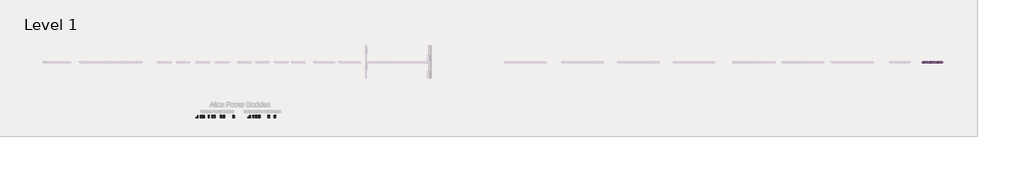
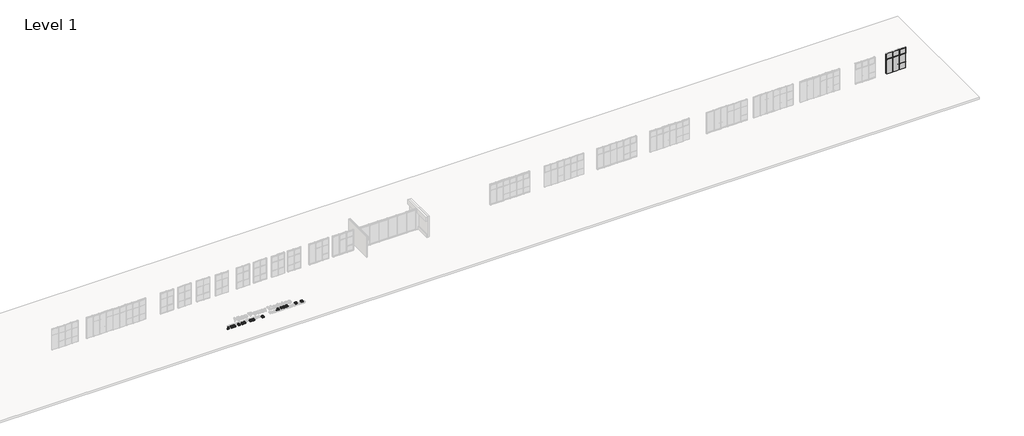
# One storey, part 17 of 22: 51 proxies.
"""IFC4 building model written with IfcOpenShell, lengths in millimetres."""

from ifc_helpers import new_model, si_unit, origin, place, context, project, spatial, transform, mapped, element, save
from components import specialty_equipment_a7725fb8, electrical_fixtures_e288b9bc, electrical_fixtures_7935cbd9, electrical_fixtures_94c24c1b, electrical_fixtures_9f06c1d8, electrical_fixtures_cf150507, electrical_fixtures_b57f04e2, electrical_fixtures_b943349e, electrical_fixtures_7ee819dc, electrical_fixtures_2c1a8ef8, electrical_fixtures_6ca6a594, electrical_fixtures_9293c94c, electrical_fixtures_81150f9e, electrical_fixtures_d6838e8a, electrical_fixtures_fca81bba, electrical_fixtures_5d6b1b63, electrical_fixtures_cbb62ec8, specialty_equipment_5beb618c, frame_teknion_horizontal_rail_5872ae1a, frame_teknion_horizontal_rail_149fd3e6, pd_horizontal_module_communications_3bd114d5, pd_horizontal_module_double_one_15_amp_standard_91662da0, pd_horizontal_module_double_one_20_amp_standard_4a8edad1, pd_horizontal_module_double_two_15_amp_standard_6849602c, pd_horizontal_module_double_two_20_amp_standard_3f62b5b6, pd_horizontal_module_single_15_amp_standard_5c934545, pd_horizontal_module_single_20_amp_standard_525e48b1, pd_vertical_module_communications_bda5cb75, pd_vertical_module_double_one_15_amp_standard_e69900ea, pd_vertical_module_double_one_20_amp_standard_6d0cff1c, pd_vertical_module_double_two_15_amp_standard_3b64569a, pd_vertical_module_double_two_20_amp_standard_31f9a75b, pd_vertical_module_quad_15_amp_standard_all_outlets_835c5be2, pd_vertical_module_quad_20_amp_standard_all_outlets_cea8ea7a, pd_vertical_module_single_15_amp_standard_b1616907, pd_vertical_module_single_20_amp_standard_ca99faa8, pd_vertical_module_triple_15_amp_standard_a40d858c, pd_vertical_module_triple_20_amp_standard_58f04986, panel_fascia_teknion_clerestory_base_fascia_level_ii_c53b4d47, panel_fascia_teknion_clerestory_base_fascia_level_ii_690aed16, panel_fascia_teknion_clerestory_base_fascia_level_ii_2c55b825, panel_fascia_teknion_clerestory_base_fascia_segmented_136e7ca1, panel_fascia_teknion_clerestory_base_fascia_segmented_5bbcc382, panel_fascia_teknion_clerestory_base_fascia_segmented_676c6a3b, panel_fascia_teknion_clerestory_base_fascia_working_wall_dc28b561, panel_fascia_teknion_clerestory_base_fascia_working_wall_c515cb01, panel_fascia_teknion_clerestory_base_fascia_working_wall_e7e99f1c

model = new_model("IFC4")

# Units and contexts
model_context = context("Model", 3, world=origin())
ifc_project = project(units=[si_unit("LENGTHUNIT", "METRE", prefix="MILLI")], contexts=[model_context])

# Site, building, storey
site = spatial("IfcSite", under=ifc_project)
building = spatial("IfcBuilding", under=site)
storey = spatial("IfcBuildingStorey", under=building, Name="Level 1", Elevation=0.0)

# Proxies
placement = place(None, origin())
specialty_equipment_shape = specialty_equipment_a7725fb8(model_context)
element("IfcBuildingElementProxy", 1, Name="Panel-Clerestory-Teknion-Optos-Altos_Monolithic_Fascias : FYCG", ObjectType="Panel-Clerestory-Teknion-Optos-Altos_Monolithic_Fascias : FYCG", at=placement, inside=storey, context=model_context, shape_type="MappedRepresentation", body=[
    mapped(specialty_equipment_shape, transform((78556.512457, 1812.3522105, 2136.775), x_axis=(-1.0, 0.0, 0.0), y_axis=(0.0, -1.0, 0.0), z_axis=(0.0, 0.0, 1.0))),
])
element("IfcBuildingElementProxy", 2, Name="Panel-Clerestory-Teknion-Optos-Altos_Monolithic_Fascias : FYCG", ObjectType="Panel-Clerestory-Teknion-Optos-Altos_Monolithic_Fascias : FYCG", at=placement, inside=storey, context=model_context, shape_type="MappedRepresentation", body=[
    mapped(specialty_equipment_shape, transform((76741.7023007, 1812.3522105, 2136.775), x_axis=(-1.0, 0.0, 0.0), y_axis=(0.0, -1.0, 0.0), z_axis=(0.0, 0.0, 1.0))),
])
electrical_fixtures_shape = electrical_fixtures_e288b9bc(model_context)
element("IfcBuildingElementProxy", 3, Name="Electrical-Teknion-EPDMD_Vertical_Power_Data_Double-R2019 : PD Vertical Module - Double 15 Amp USB (A+C)", ObjectType="Electrical-Teknion-EPDMD_Vertical_Power_Data_Double-R2019 : PD Vertical Module - Double 15 Amp USB (A+C)", at=placement, inside=storey, context=model_context, shape_type="MappedRepresentation", body=[
    mapped(electrical_fixtures_shape, transform((-17578.0460124, -5496.5835012, 0.0), x_axis=(1.0, 0.0, 0.0), y_axis=(0.0, 1.0, 0.0), z_axis=(0.0, 0.0, 1.0))),
])
electrical_fixtures_2_shape = electrical_fixtures_7935cbd9(model_context)
element("IfcBuildingElementProxy", 4, Name="Electrical-Teknion-EPDMD_Vertical_Power_Data_Double-R2019 : PD Vertical Module - Double 20 Amp USB (A+C)", ObjectType="Electrical-Teknion-EPDMD_Vertical_Power_Data_Double-R2019 : PD Vertical Module - Double 20 Amp USB (A+C)", at=placement, inside=storey, context=model_context, shape_type="MappedRepresentation", body=[
    mapped(electrical_fixtures_2_shape, transform((-17578.0460124, -5272.1720809, 0.0), x_axis=(1.0, 0.0, 0.0), y_axis=(0.0, 1.0, 0.0), z_axis=(0.0, 0.0, 1.0))),
])
electrical_fixtures_3_shape = electrical_fixtures_94c24c1b(model_context)
element("IfcBuildingElementProxy", 5, Name="Electrical-Teknion-EPDMD_Vertical_Power_Data_Double-R2019 : PD Vertical Module - Double 15 Amp USB (A+C) & 15 Amp Standard", ObjectType="Electrical-Teknion-EPDMD_Vertical_Power_Data_Double-R2019 : PD Vertical Module - Double 15 Amp USB (A+C) & 15 Amp Standard", at=placement, inside=storey, context=model_context, shape_type="MappedRepresentation", body=[
    mapped(electrical_fixtures_3_shape, transform((-17134.5220958, -5496.5835012, 0.0), x_axis=(1.0, 0.0, 0.0), y_axis=(0.0, 1.0, 0.0), z_axis=(0.0, 0.0, 1.0))),
])
electrical_fixtures_4_shape = electrical_fixtures_9f06c1d8(model_context)
element("IfcBuildingElementProxy", 6, Name="Electrical-Teknion-EPDMD_Vertical_Power_Data_Double-R2019 : PD Vertical Module - Double 20 Amp USB (A+C) & 20 Amp Standard", ObjectType="Electrical-Teknion-EPDMD_Vertical_Power_Data_Double-R2019 : PD Vertical Module - Double 20 Amp USB (A+C) & 20 Amp Standard", at=placement, inside=storey, context=model_context, shape_type="MappedRepresentation", body=[
    mapped(electrical_fixtures_4_shape, transform((-17134.5220958, -5272.1720809, 0.0), x_axis=(1.0, 0.0, 0.0), y_axis=(0.0, 1.0, 0.0), z_axis=(0.0, 0.0, 1.0))),
])
electrical_fixtures_5_shape = electrical_fixtures_cf150507(model_context)
element("IfcBuildingElementProxy", 7, Name="Electrical-Teknion-EPDMT_Vertical_Power_Data_Triple-R2019 : PD Vertical Module - Triple 15 Amp USB (A+C) & 15 Amp Standard", ObjectType="Electrical-Teknion-EPDMT_Vertical_Power_Data_Triple-R2019 : PD Vertical Module - Triple 15 Amp USB (A+C) & 15 Amp Standard", at=placement, inside=storey, context=model_context, shape_type="MappedRepresentation", body=[
    mapped(electrical_fixtures_5_shape, transform((-16003.1705225, -5496.5835012, 0.0), x_axis=(1.0, 0.0, 0.0), y_axis=(0.0, 1.0, 0.0), z_axis=(0.0, 0.0, 1.0))),
])
electrical_fixtures_6_shape = electrical_fixtures_b57f04e2(model_context)
element("IfcBuildingElementProxy", 8, Name="Electrical-Teknion-EPDMT_Vertical_Power_Data_Triple-R2019 : PD Vertical Module - Triple 20 Amp USB (A+C) & 20 Amp Standard", ObjectType="Electrical-Teknion-EPDMT_Vertical_Power_Data_Triple-R2019 : PD Vertical Module - Triple 20 Amp USB (A+C) & 20 Amp Standard", at=placement, inside=storey, context=model_context, shape_type="MappedRepresentation", body=[
    mapped(electrical_fixtures_6_shape, transform((-16003.1705225, -5272.1720809, 0.0), x_axis=(1.0, 0.0, 0.0), y_axis=(0.0, 1.0, 0.0), z_axis=(0.0, 0.0, 1.0))),
])
electrical_fixtures_7_shape = electrical_fixtures_b943349e(model_context)
element("IfcBuildingElementProxy", 9, Name="Electrical-Teknion-EPDMQ_Vertical_Power_Data_Quad-R2019 : PD Vertical Module - Quad 15 Amp USB (A+C) & 15 Amp Standard", ObjectType="Electrical-Teknion-EPDMQ_Vertical_Power_Data_Quad-R2019 : PD Vertical Module - Quad 15 Amp USB (A+C) & 15 Amp Standard", at=placement, inside=storey, context=model_context, shape_type="MappedRepresentation", body=[
    mapped(electrical_fixtures_7_shape, transform((-14351.3987218, -5496.5835012, 0.0), x_axis=(1.0, 0.0, 0.0), y_axis=(0.0, 1.0, 0.0), z_axis=(0.0, 0.0, 1.0))),
])
electrical_fixtures_8_shape = electrical_fixtures_7ee819dc(model_context)
element("IfcBuildingElementProxy", 10, Name="Electrical-Teknion-EPDMQ_Vertical_Power_Data_Quad-R2019 : PD Vertical Module - Quad 20 Amp USB (A+C) & 20 Amp Standard", ObjectType="Electrical-Teknion-EPDMQ_Vertical_Power_Data_Quad-R2019 : PD Vertical Module - Quad 20 Amp USB (A+C) & 20 Amp Standard", at=placement, inside=storey, context=model_context, shape_type="MappedRepresentation", body=[
    mapped(electrical_fixtures_8_shape, transform((-14351.3987218, -5272.1720809, 0.0), x_axis=(1.0, 0.0, 0.0), y_axis=(0.0, 1.0, 0.0), z_axis=(0.0, 0.0, 1.0))),
])
electrical_fixtures_9_shape = electrical_fixtures_2c1a8ef8(model_context)
element("IfcBuildingElementProxy", 11, Name="Electrical-Teknion-EPDHS_Horizontal_Power_Data_Single-R2019 : PD Horizontal Module - Single 15 Amp USB (A+C)", ObjectType="Electrical-Teknion-EPDHS_Horizontal_Power_Data_Single-R2019 : PD Horizontal Module - Single 15 Amp USB (A+C)", at=placement, inside=storey, context=model_context, shape_type="MappedRepresentation", body=[
    mapped(electrical_fixtures_9_shape, transform((-11709.2014406, -5496.5835012, 0.0), x_axis=(1.0, 0.0, 0.0), y_axis=(0.0, 1.0, 0.0), z_axis=(0.0, 0.0, 1.0))),
])
electrical_fixtures_10_shape = electrical_fixtures_6ca6a594(model_context)
element("IfcBuildingElementProxy", 12, Name="Electrical-Teknion-EPDHS_Horizontal_Power_Data_Single-R2019 : PD Horizontal Module - Single 20 Amp USB (A+C)", ObjectType="Electrical-Teknion-EPDHS_Horizontal_Power_Data_Single-R2019 : PD Horizontal Module - Single 20 Amp USB (A+C)", at=placement, inside=storey, context=model_context, shape_type="MappedRepresentation", body=[
    mapped(electrical_fixtures_10_shape, transform((-11709.2014406, -5272.1720809, 0.0), x_axis=(1.0, 0.0, 0.0), y_axis=(0.0, 1.0, 0.0), z_axis=(0.0, 0.0, 1.0))),
])
electrical_fixtures_11_shape = electrical_fixtures_9293c94c(model_context)
element("IfcBuildingElementProxy", 13, Name="Electrical-Teknion-EPDHD_Horizontal_Power_Data_Double-R2019 : PD Horizontal Module - Double 15 Amp USB (A+C)", ObjectType="Electrical-Teknion-EPDHD_Horizontal_Power_Data_Double-R2019 : PD Horizontal Module - Double 15 Amp USB (A+C)", at=placement, inside=storey, context=model_context, shape_type="MappedRepresentation", body=[
    mapped(electrical_fixtures_11_shape, transform((-9748.4131037, -5496.5835012, 0.0), x_axis=(1.0, 0.0, 0.0), y_axis=(0.0, 1.0, 0.0), z_axis=(0.0, 0.0, 1.0))),
])
electrical_fixtures_12_shape = electrical_fixtures_81150f9e(model_context)
element("IfcBuildingElementProxy", 14, Name="Electrical-Teknion-EPDHD_Horizontal_Power_Data_Double-R2019 : PD Horizontal Module - Double 20 Amp USB (A+C)", ObjectType="Electrical-Teknion-EPDHD_Horizontal_Power_Data_Double-R2019 : PD Horizontal Module - Double 20 Amp USB (A+C)", at=placement, inside=storey, context=model_context, shape_type="MappedRepresentation", body=[
    mapped(electrical_fixtures_12_shape, transform((-9748.4131037, -5272.1720809, 0.0), x_axis=(1.0, 0.0, 0.0), y_axis=(0.0, 1.0, 0.0), z_axis=(0.0, 0.0, 1.0))),
])
electrical_fixtures_13_shape = electrical_fixtures_d6838e8a(model_context)
element("IfcBuildingElementProxy", 15, Name="Electrical-Teknion-EPDHD_Horizontal_Power_Data_Double-R2019 : PD Horizontal Module - Double 15 Amp USB (A+C) & 15 Amp Standard", ObjectType="Electrical-Teknion-EPDHD_Horizontal_Power_Data_Double-R2019 : PD Horizontal Module - Double 15 Amp USB (A+C) & 15 Amp Standard", at=placement, inside=storey, context=model_context, shape_type="MappedRepresentation", body=[
    mapped(electrical_fixtures_13_shape, transform((-8936.6472871, -5496.5835012, 0.0), x_axis=(1.0, 0.0, 0.0), y_axis=(0.0, 1.0, 0.0), z_axis=(0.0, 0.0, 1.0))),
])
electrical_fixtures_14_shape = electrical_fixtures_fca81bba(model_context)
element("IfcBuildingElementProxy", 16, Name="Electrical-Teknion-EPDHD_Horizontal_Power_Data_Double-R2019 : PD Horizontal Module - Double 20 Amp USB (A+C) & 20 Amp Standard", ObjectType="Electrical-Teknion-EPDHD_Horizontal_Power_Data_Double-R2019 : PD Horizontal Module - Double 20 Amp USB (A+C) & 20 Amp Standard", at=placement, inside=storey, context=model_context, shape_type="MappedRepresentation", body=[
    mapped(electrical_fixtures_14_shape, transform((-8936.6472871, -5272.1720809, 0.0), x_axis=(1.0, 0.0, 0.0), y_axis=(0.0, 1.0, 0.0), z_axis=(0.0, 0.0, 1.0))),
])
electrical_fixtures_15_shape = electrical_fixtures_5d6b1b63(model_context)
element("IfcBuildingElementProxy", 17, Name="Electrical-Teknion-EPDMS_Vertical_Power_Data_Single-R2019 : PD Vertical Module - Single 15 Amp USB (A+C)", ObjectType="Electrical-Teknion-EPDMS_Vertical_Power_Data_Single-R2019 : PD Vertical Module - Single 15 Amp USB (A+C)", at=placement, inside=storey, context=model_context, shape_type="MappedRepresentation", body=[
    mapped(electrical_fixtures_15_shape, transform((-18611.1746708, -5496.5835012, 0.0), x_axis=(1.0, 0.0, 0.0), y_axis=(0.0, 1.0, 0.0), z_axis=(0.0, 0.0, 1.0))),
])
electrical_fixtures_16_shape = electrical_fixtures_cbb62ec8(model_context)
element("IfcBuildingElementProxy", 18, Name="Electrical-Teknion-EPDMS_Vertical_Power_Data_Single-R2019 : PD Vertical Module - Single 20 Amp USB (A+C)", ObjectType="Electrical-Teknion-EPDMS_Vertical_Power_Data_Single-R2019 : PD Vertical Module - Single 20 Amp USB (A+C)", at=placement, inside=storey, context=model_context, shape_type="MappedRepresentation", body=[
    mapped(electrical_fixtures_16_shape, transform((-18611.1746708, -5272.1720809, 0.0), x_axis=(1.0, 0.0, 0.0), y_axis=(0.0, 1.0, 0.0), z_axis=(0.0, 0.0, 1.0))),
])
specialty_equipment_2_shape = specialty_equipment_5beb618c(model_context)
element("IfcBuildingElementProxy", 19, Name="Panel-Clerestory-Teknion-Optos-Altos_Monolithic_Fascias : FYCG", ObjectType="Panel-Clerestory-Teknion-Optos-Altos_Monolithic_Fascias : FYCG", at=placement, inside=storey, context=model_context, shape_type="MappedRepresentation", body=[
    mapped(specialty_equipment_2_shape, transform((77649.1073788, 1812.3522105, 2136.775), x_axis=(-1.0, 0.0, 0.0), y_axis=(0.0, -1.0, 0.0), z_axis=(0.0, 0.0, 1.0))),
])
frame_teknion_horizontal_rail_shape = frame_teknion_horizontal_rail_5872ae1a(model_context)
element("IfcBuildingElementProxy", 20, Name="Frame-Teknion-Horizontal_Rail : FPKK", ObjectType="Frame-Teknion-Horizontal_Rail : FPKK", at=placement, inside=storey, context=model_context, shape_type="MappedRepresentation", body=[
    mapped(frame_teknion_horizontal_rail_shape, transform((78556.512457, 1812.3522105, 917.575), x_axis=(-1.0, 0.0, 0.0), y_axis=(0.0, -1.0, 0.0), z_axis=(0.0, 0.0, 1.0))),
])
element("IfcBuildingElementProxy", 21, Name="Frame-Teknion-Horizontal_Rail : FPKK", ObjectType="Frame-Teknion-Horizontal_Rail : FPKK", at=placement, inside=storey, context=model_context, shape_type="MappedRepresentation", body=[
    mapped(frame_teknion_horizontal_rail_shape, transform((78556.512457, 1812.3522105, 2136.775), x_axis=(-1.0, 0.0, 0.0), y_axis=(0.0, -1.0, 0.0), z_axis=(0.0, 0.0, 1.0))),
])
element("IfcBuildingElementProxy", 22, Name="Frame-Teknion-Horizontal_Rail : FPKK", ObjectType="Frame-Teknion-Horizontal_Rail : FPKK", at=placement, inside=storey, context=model_context, shape_type="MappedRepresentation", body=[
    mapped(frame_teknion_horizontal_rail_shape, transform((76741.7023007, 1812.3522105, 2136.775), x_axis=(-1.0, 0.0, 0.0), y_axis=(0.0, -1.0, 0.0), z_axis=(0.0, 0.0, 1.0))),
])
frame_teknion_horizontal_rail_2_shape = frame_teknion_horizontal_rail_149fd3e6(model_context)
element("IfcBuildingElementProxy", 23, Name="Frame-Teknion-Horizontal_Rail : FPKK", ObjectType="Frame-Teknion-Horizontal_Rail : FPKK", at=placement, inside=storey, context=model_context, shape_type="MappedRepresentation", body=[
    mapped(frame_teknion_horizontal_rail_2_shape, transform((77649.1073788, 1812.3522105, 917.575), x_axis=(-1.0, 0.0, 0.0), y_axis=(0.0, -1.0, 0.0), z_axis=(0.0, 0.0, 1.0))),
])
element("IfcBuildingElementProxy", 24, Name="Frame-Teknion-Horizontal_Rail : FPKK", ObjectType="Frame-Teknion-Horizontal_Rail : FPKK", at=placement, inside=storey, context=model_context, shape_type="MappedRepresentation", body=[
    mapped(frame_teknion_horizontal_rail_2_shape, transform((77649.1073788, 1812.3522105, 2136.775), x_axis=(-1.0, 0.0, 0.0), y_axis=(0.0, -1.0, 0.0), z_axis=(0.0, 0.0, 1.0))),
])
pd_horizontal_module_communications_shape = pd_horizontal_module_communications_3bd114d5(model_context)
element("IfcBuildingElementProxy", 25, Name="Electrical-Teknion-EPDHC_Horizontal_Power_Data_Module_Communication-R2019 : PD Horizontal Module - Communications", ObjectType="Electrical-Teknion-EPDHC_Horizontal_Power_Data_Module_Communication-R2019 : PD Horizontal Module - Communications", at=placement, inside=storey, context=model_context, shape_type="MappedRepresentation", body=[
    mapped(pd_horizontal_module_communications_shape, transform((-12409.8908434, -5496.5835012, 0.0), x_axis=(1.0, 0.0, 0.0), y_axis=(0.0, 1.0, 0.0), z_axis=(0.0, 0.0, 1.0))),
])
pd_horizontal_module_double_one_15_amp_standard_shape = pd_horizontal_module_double_one_15_amp_standard_91662da0(model_context)
element("IfcBuildingElementProxy", 26, Name="Electrical-Teknion-EPDHD_Horizontal_Power_Data_Double-R2019 : PD Horizontal Module - Double One 15 Amp Standard", ObjectType="Electrical-Teknion-EPDHD_Horizontal_Power_Data_Double-R2019 : PD Horizontal Module - Double One 15 Amp Standard", at=placement, inside=storey, context=model_context, shape_type="MappedRepresentation", body=[
    mapped(pd_horizontal_module_double_one_15_amp_standard_shape, transform((-11390.4705129, -5496.5835012, 0.0), x_axis=(1.0, 0.0, 0.0), y_axis=(0.0, 1.0, 0.0), z_axis=(0.0, 0.0, 1.0))),
])
pd_horizontal_module_double_one_20_amp_standard_shape = pd_horizontal_module_double_one_20_amp_standard_4a8edad1(model_context)
element("IfcBuildingElementProxy", 27, Name="Electrical-Teknion-EPDHD_Horizontal_Power_Data_Double-R2019 : PD Horizontal Module - Double One 20 Amp Standard", ObjectType="Electrical-Teknion-EPDHD_Horizontal_Power_Data_Double-R2019 : PD Horizontal Module - Double One 20 Amp Standard", at=placement, inside=storey, context=model_context, shape_type="MappedRepresentation", body=[
    mapped(pd_horizontal_module_double_one_20_amp_standard_shape, transform((-11390.4705129, -5272.1720809, 0.0), x_axis=(1.0, 0.0, 0.0), y_axis=(0.0, 1.0, 0.0), z_axis=(0.0, 0.0, 1.0))),
])
pd_horizontal_module_double_two_15_amp_standard_shape = pd_horizontal_module_double_two_15_amp_standard_6849602c(model_context)
element("IfcBuildingElementProxy", 28, Name="Electrical-Teknion-EPDHD_Horizontal_Power_Data_Double-R2019 : PD Horizontal Module - Double Two 15 Amp Standard", ObjectType="Electrical-Teknion-EPDHD_Horizontal_Power_Data_Double-R2019 : PD Horizontal Module - Double Two 15 Amp Standard", at=placement, inside=storey, context=model_context, shape_type="MappedRepresentation", body=[
    mapped(pd_horizontal_module_double_two_15_amp_standard_shape, transform((-10998.0608961, -5496.5835012, 0.0), x_axis=(1.0, 0.0, 0.0), y_axis=(0.0, 1.0, 0.0), z_axis=(0.0, 0.0, 1.0))),
])
pd_horizontal_module_double_two_20_amp_standard_shape = pd_horizontal_module_double_two_20_amp_standard_3f62b5b6(model_context)
element("IfcBuildingElementProxy", 29, Name="Electrical-Teknion-EPDHD_Horizontal_Power_Data_Double-R2019 : PD Horizontal Module - Double Two 20 Amp Standard", ObjectType="Electrical-Teknion-EPDHD_Horizontal_Power_Data_Double-R2019 : PD Horizontal Module - Double Two 20 Amp Standard", at=placement, inside=storey, context=model_context, shape_type="MappedRepresentation", body=[
    mapped(pd_horizontal_module_double_two_20_amp_standard_shape, transform((-11013.7856139, -5272.1720809, 0.0), x_axis=(1.0, 0.0, 0.0), y_axis=(0.0, 1.0, 0.0), z_axis=(0.0, 0.0, 1.0))),
])
pd_horizontal_module_single_15_amp_standard_shape = pd_horizontal_module_single_15_amp_standard_5c934545(model_context)
element("IfcBuildingElementProxy", 30, Name="Electrical-Teknion-EPDHS_Horizontal_Power_Data_Single-R2019 : PD Horizontal Module - Single 15 Amp Standard", ObjectType="Electrical-Teknion-EPDHS_Horizontal_Power_Data_Single-R2019 : PD Horizontal Module - Single 15 Amp Standard", at=placement, inside=storey, context=model_context, shape_type="MappedRepresentation", body=[
    mapped(pd_horizontal_module_single_15_amp_standard_shape, transform((-12160.1129942, -5496.5835012, 0.0), x_axis=(1.0, 0.0, 0.0), y_axis=(0.0, 1.0, 0.0), z_axis=(0.0, 0.0, 1.0))),
])
pd_horizontal_module_single_20_amp_standard_shape = pd_horizontal_module_single_20_amp_standard_525e48b1(model_context)
element("IfcBuildingElementProxy", 31, Name="Electrical-Teknion-EPDHS_Horizontal_Power_Data_Single-R2019 : PD Horizontal Module - Single 20 Amp Standard", ObjectType="Electrical-Teknion-EPDHS_Horizontal_Power_Data_Single-R2019 : PD Horizontal Module - Single 20 Amp Standard", at=placement, inside=storey, context=model_context, shape_type="MappedRepresentation", body=[
    mapped(pd_horizontal_module_single_20_amp_standard_shape, transform((-12160.1129942, -5272.1720809, 0.0), x_axis=(1.0, 0.0, 0.0), y_axis=(0.0, 1.0, 0.0), z_axis=(0.0, 0.0, 1.0))),
])
pd_vertical_module_communications_shape = pd_vertical_module_communications_bda5cb75(model_context)
element("IfcBuildingElementProxy", 32, Name="Electrical-Teknion-EPDMC_Vertical_Power_Data_Module_Communication-R2019 : PD Vertical Module - Communications", ObjectType="Electrical-Teknion-EPDMC_Vertical_Power_Data_Module_Communication-R2019 : PD Vertical Module - Communications", at=placement, inside=storey, context=model_context, shape_type="MappedRepresentation", body=[
    mapped(pd_vertical_module_communications_shape, transform((-19187.6467155, -5496.5835012, 0.0), x_axis=(1.0, 0.0, 0.0), y_axis=(0.0, 1.0, 0.0), z_axis=(0.0, 0.0, 1.0))),
])
pd_vertical_module_double_one_15_amp_standard_shape = pd_vertical_module_double_one_15_amp_standard_e69900ea(model_context)
element("IfcBuildingElementProxy", 33, Name="Electrical-Teknion-EPDMD_Vertical_Power_Data_Double-R2019 : PD Vertical Module - Double One 15 Amp Standard", ObjectType="Electrical-Teknion-EPDMD_Vertical_Power_Data_Double-R2019 : PD Vertical Module - Double One 15 Amp Standard", at=placement, inside=storey, context=model_context, shape_type="MappedRepresentation", body=[
    mapped(pd_vertical_module_double_one_15_amp_standard_shape, transform((-18418.6109898, -5496.5835012, 0.0), x_axis=(1.0, 0.0, 0.0), y_axis=(0.0, 1.0, 0.0), z_axis=(0.0, 0.0, 1.0))),
])
pd_vertical_module_double_one_20_amp_standard_shape = pd_vertical_module_double_one_20_amp_standard_6d0cff1c(model_context)
element("IfcBuildingElementProxy", 34, Name="Electrical-Teknion-EPDMD_Vertical_Power_Data_Double-R2019 : PD Vertical Module - Double One 20 Amp Standard", ObjectType="Electrical-Teknion-EPDMD_Vertical_Power_Data_Double-R2019 : PD Vertical Module - Double One 20 Amp Standard", at=placement, inside=storey, context=model_context, shape_type="MappedRepresentation", body=[
    mapped(pd_vertical_module_double_one_20_amp_standard_shape, transform((-18418.6109898, -5272.1720809, 0.0), x_axis=(1.0, 0.0, 0.0), y_axis=(0.0, 1.0, 0.0), z_axis=(0.0, 0.0, 1.0))),
])
pd_vertical_module_double_two_15_amp_standard_shape = pd_vertical_module_double_two_15_amp_standard_3b64569a(model_context)
element("IfcBuildingElementProxy", 35, Name="Electrical-Teknion-EPDMD_Vertical_Power_Data_Double-R2019 : PD Vertical Module - Double Two 15 Amp Standard", ObjectType="Electrical-Teknion-EPDMD_Vertical_Power_Data_Double-R2019 : PD Vertical Module - Double Two 15 Amp Standard", at=placement, inside=storey, context=model_context, shape_type="MappedRepresentation", body=[
    mapped(pd_vertical_module_double_two_15_amp_standard_shape, transform((-18205.564567, -5496.5835012, 0.0), x_axis=(1.0, 0.0, 0.0), y_axis=(0.0, 1.0, 0.0), z_axis=(0.0, 0.0, 1.0))),
])
pd_vertical_module_double_two_20_amp_standard_shape = pd_vertical_module_double_two_20_amp_standard_31f9a75b(model_context)
element("IfcBuildingElementProxy", 36, Name="Electrical-Teknion-EPDMD_Vertical_Power_Data_Double-R2019 : PD Vertical Module - Double Two 20 Amp Standard", ObjectType="Electrical-Teknion-EPDMD_Vertical_Power_Data_Double-R2019 : PD Vertical Module - Double Two 20 Amp Standard", at=placement, inside=storey, context=model_context, shape_type="MappedRepresentation", body=[
    mapped(pd_vertical_module_double_two_20_amp_standard_shape, transform((-18205.564567, -5272.1720809, 0.0), x_axis=(1.0, 0.0, 0.0), y_axis=(0.0, 1.0, 0.0), z_axis=(0.0, 0.0, 1.0))),
])
pd_vertical_module_quad_15_amp_standard_all_outlets_shape = pd_vertical_module_quad_15_amp_standard_all_outlets_835c5be2(model_context)
element("IfcBuildingElementProxy", 37, Name="Electrical-Teknion-EPDMQ_Vertical_Power_Data_Quad-R2019 : PD Vertical Module - Quad 15 Amp Standard - All Outlets", ObjectType="Electrical-Teknion-EPDMQ_Vertical_Power_Data_Quad-R2019 : PD Vertical Module - Quad 15 Amp Standard - All Outlets", at=placement, inside=storey, context=model_context, shape_type="MappedRepresentation", body=[
    mapped(pd_vertical_module_quad_15_amp_standard_all_outlets_shape, transform((-15638.7801514, -5496.5835012, 0.0), x_axis=(1.0, 0.0, 0.0), y_axis=(0.0, 1.0, 0.0), z_axis=(0.0, 0.0, 1.0))),
])
pd_vertical_module_quad_20_amp_standard_all_outlets_shape = pd_vertical_module_quad_20_amp_standard_all_outlets_cea8ea7a(model_context)
element("IfcBuildingElementProxy", 38, Name="Electrical-Teknion-EPDMQ_Vertical_Power_Data_Quad-R2019 : PD Vertical Module - Quad 20 Amp Standard - All Outlets", ObjectType="Electrical-Teknion-EPDMQ_Vertical_Power_Data_Quad-R2019 : PD Vertical Module - Quad 20 Amp Standard - All Outlets", at=placement, inside=storey, context=model_context, shape_type="MappedRepresentation", body=[
    mapped(pd_vertical_module_quad_20_amp_standard_all_outlets_shape, transform((-15638.7801514, -5272.1720809, 0.0), x_axis=(1.0, 0.0, 0.0), y_axis=(0.0, 1.0, 0.0), z_axis=(0.0, 0.0, 1.0))),
])
pd_vertical_module_single_15_amp_standard_shape = pd_vertical_module_single_15_amp_standard_b1616907(model_context)
element("IfcBuildingElementProxy", 39, Name="Electrical-Teknion-EPDMS_Vertical_Power_Data_Single-R2019 : PD Vertical Module - Single 15 Amp Standard", ObjectType="Electrical-Teknion-EPDMS_Vertical_Power_Data_Single-R2019 : PD Vertical Module - Single 15 Amp Standard", at=placement, inside=storey, context=model_context, shape_type="MappedRepresentation", body=[
    mapped(pd_vertical_module_single_15_amp_standard_shape, transform((-19000.731447, -5496.5835012, 0.0), x_axis=(1.0, 0.0, 0.0), y_axis=(0.0, 1.0, 0.0), z_axis=(0.0, 0.0, 1.0))),
])
pd_vertical_module_single_20_amp_standard_shape = pd_vertical_module_single_20_amp_standard_ca99faa8(model_context)
element("IfcBuildingElementProxy", 40, Name="Electrical-Teknion-EPDMS_Vertical_Power_Data_Single-R2019 : PD Vertical Module - Single 20 Amp Standard", ObjectType="Electrical-Teknion-EPDMS_Vertical_Power_Data_Single-R2019 : PD Vertical Module - Single 20 Amp Standard", at=placement, inside=storey, context=model_context, shape_type="MappedRepresentation", body=[
    mapped(pd_vertical_module_single_20_amp_standard_shape, transform((-19000.731447, -5272.1720809, 0.0), x_axis=(1.0, 0.0, 0.0), y_axis=(0.0, 1.0, 0.0), z_axis=(0.0, 0.0, 1.0))),
])
pd_vertical_module_triple_15_amp_standard_shape = pd_vertical_module_triple_15_amp_standard_a40d858c(model_context)
element("IfcBuildingElementProxy", 41, Name="Electrical-Teknion-EPDMT_Vertical_Power_Data_Triple-R2019 : PD Vertical Module - Triple 15 Amp Standard", ObjectType="Electrical-Teknion-EPDMT_Vertical_Power_Data_Triple-R2019 : PD Vertical Module - Triple 15 Amp Standard", at=placement, inside=storey, context=model_context, shape_type="MappedRepresentation", body=[
    mapped(pd_vertical_module_triple_15_amp_standard_shape, transform((-16856.8079799, -5496.5835012, 0.0), x_axis=(1.0, 0.0, 0.0), y_axis=(0.0, 1.0, 0.0), z_axis=(0.0, 0.0, 1.0))),
])
pd_vertical_module_triple_20_amp_standard_shape = pd_vertical_module_triple_20_amp_standard_58f04986(model_context)
element("IfcBuildingElementProxy", 42, Name="Electrical-Teknion-EPDMT_Vertical_Power_Data_Triple-R2019 : PD Vertical Module - Triple 20 Amp Standard", ObjectType="Electrical-Teknion-EPDMT_Vertical_Power_Data_Triple-R2019 : PD Vertical Module - Triple 20 Amp Standard", at=placement, inside=storey, context=model_context, shape_type="MappedRepresentation", body=[
    mapped(pd_vertical_module_triple_20_amp_standard_shape, transform((-16856.8079799, -5272.1720809, 0.0), x_axis=(1.0, 0.0, 0.0), y_axis=(0.0, 1.0, 0.0), z_axis=(0.0, 0.0, 1.0))),
])
panel_fascia_teknion_clerestory_base_fascia_level_ii_shape = panel_fascia_teknion_clerestory_base_fascia_level_ii_c53b4d47(model_context)
element("IfcBuildingElementProxy", 43, Name="Panel-Fascia-Teknion-Clerestory_Base_Fascia : Level II", ObjectType="Panel-Fascia-Teknion-Clerestory_Base_Fascia : Level II", at=placement, inside=storey, context=model_context, shape_type="MappedRepresentation", body=[
    mapped(panel_fascia_teknion_clerestory_base_fascia_level_ii_shape, transform((78556.512457, 1852.8652105, 917.575), x_axis=(-1.0, 0.0, 0.0), y_axis=(0.0, -1.0, 0.0), z_axis=(0.0, 0.0, 1.0))),
])
panel_fascia_teknion_clerestory_base_fascia_level_ii_2_shape = panel_fascia_teknion_clerestory_base_fascia_level_ii_690aed16(model_context)
element("IfcBuildingElementProxy", 44, Name="Panel-Fascia-Teknion-Clerestory_Base_Fascia : Level II", ObjectType="Panel-Fascia-Teknion-Clerestory_Base_Fascia : Level II", at=placement, inside=storey, context=model_context, shape_type="MappedRepresentation", body=[
    mapped(panel_fascia_teknion_clerestory_base_fascia_level_ii_2_shape, transform((78556.512457, 1771.8392105, 917.575), x_axis=(-1.0, 0.0, 0.0), y_axis=(0.0, -1.0, 0.0), z_axis=(0.0, 0.0, 1.0))),
])
panel_fascia_teknion_clerestory_base_fascia_level_ii_3_shape = panel_fascia_teknion_clerestory_base_fascia_level_ii_2c55b825(model_context)
element("IfcBuildingElementProxy", 45, Name="Panel-Fascia-Teknion-Clerestory_Base_Fascia : Level II", ObjectType="Panel-Fascia-Teknion-Clerestory_Base_Fascia : Level II", at=placement, inside=storey, context=model_context, shape_type="MappedRepresentation", body=[
    mapped(panel_fascia_teknion_clerestory_base_fascia_level_ii_3_shape, transform((77649.1073788, 1852.8652105, 917.575), x_axis=(-1.0, 0.0, 0.0), y_axis=(0.0, -1.0, 0.0), z_axis=(0.0, 0.0, 1.0))),
])
panel_fascia_teknion_clerestory_base_fascia_segmented_shape = panel_fascia_teknion_clerestory_base_fascia_segmented_136e7ca1(model_context)
element("IfcBuildingElementProxy", 46, Name="Panel-Fascia-Teknion-Clerestory_Base_Fascia : Segmented Monolithic Level I", ObjectType="Panel-Fascia-Teknion-Clerestory_Base_Fascia : Segmented Monolithic Level I", at=placement, inside=storey, context=model_context, shape_type="MappedRepresentation", body=[
    mapped(panel_fascia_teknion_clerestory_base_fascia_segmented_shape, transform((76741.7023007, 1852.8652105, 12.7), x_axis=(-1.0, 0.0, 0.0), y_axis=(0.0, -1.0, 0.0), z_axis=(0.0, 0.0, 1.0))),
])
panel_fascia_teknion_clerestory_base_fascia_segmented_2_shape = panel_fascia_teknion_clerestory_base_fascia_segmented_5bbcc382(model_context)
element("IfcBuildingElementProxy", 47, Name="Panel-Fascia-Teknion-Clerestory_Base_Fascia : Segmented Monolithic Level I", ObjectType="Panel-Fascia-Teknion-Clerestory_Base_Fascia : Segmented Monolithic Level I", at=placement, inside=storey, context=model_context, shape_type="MappedRepresentation", body=[
    mapped(panel_fascia_teknion_clerestory_base_fascia_segmented_2_shape, transform((76741.7023007, 1771.8392105, 12.7), x_axis=(-1.0, 0.0, 0.0), y_axis=(0.0, -1.0, 0.0), z_axis=(0.0, 0.0, 1.0))),
])
panel_fascia_teknion_clerestory_base_fascia_segmented_3_shape = panel_fascia_teknion_clerestory_base_fascia_segmented_676c6a3b(model_context)
element("IfcBuildingElementProxy", 48, Name="Panel-Fascia-Teknion-Clerestory_Base_Fascia : Segmented Monolithic Level I", ObjectType="Panel-Fascia-Teknion-Clerestory_Base_Fascia : Segmented Monolithic Level I", at=placement, inside=storey, context=model_context, shape_type="MappedRepresentation", body=[
    mapped(panel_fascia_teknion_clerestory_base_fascia_segmented_3_shape, transform((77649.1073788, 1771.8392105, 12.7), x_axis=(-1.0, 0.0, 0.0), y_axis=(0.0, -1.0, 0.0), z_axis=(0.0, 0.0, 1.0))),
])
panel_fascia_teknion_clerestory_base_fascia_working_wall_shape = panel_fascia_teknion_clerestory_base_fascia_working_wall_dc28b561(model_context)
element("IfcBuildingElementProxy", 49, Name="Panel-Fascia-Teknion-Clerestory_Base_Fascia : Working Wall Monolithic Level I", ObjectType="Panel-Fascia-Teknion-Clerestory_Base_Fascia : Working Wall Monolithic Level I", at=placement, inside=storey, context=model_context, shape_type="MappedRepresentation", body=[
    mapped(panel_fascia_teknion_clerestory_base_fascia_working_wall_shape, transform((78556.512457, 1771.8392105, 12.7), x_axis=(-1.0, 0.0, 0.0), y_axis=(0.0, -1.0, 0.0), z_axis=(0.0, 0.0, 1.0))),
])
panel_fascia_teknion_clerestory_base_fascia_working_wall_2_shape = panel_fascia_teknion_clerestory_base_fascia_working_wall_c515cb01(model_context)
element("IfcBuildingElementProxy", 50, Name="Panel-Fascia-Teknion-Clerestory_Base_Fascia : Working Wall Monolithic Level I", ObjectType="Panel-Fascia-Teknion-Clerestory_Base_Fascia : Working Wall Monolithic Level I", at=placement, inside=storey, context=model_context, shape_type="MappedRepresentation", body=[
    mapped(panel_fascia_teknion_clerestory_base_fascia_working_wall_2_shape, transform((78556.512457, 1852.8652105, 12.7), x_axis=(-1.0, 0.0, 0.0), y_axis=(0.0, -1.0, 0.0), z_axis=(0.0, 0.0, 1.0))),
])
panel_fascia_teknion_clerestory_base_fascia_working_wall_3_shape = panel_fascia_teknion_clerestory_base_fascia_working_wall_e7e99f1c(model_context)
element("IfcBuildingElementProxy", 51, Name="Panel-Fascia-Teknion-Clerestory_Base_Fascia : Working Wall Monolithic Level I", ObjectType="Panel-Fascia-Teknion-Clerestory_Base_Fascia : Working Wall Monolithic Level I", at=placement, inside=storey, context=model_context, shape_type="MappedRepresentation", body=[
    mapped(panel_fascia_teknion_clerestory_base_fascia_working_wall_3_shape, transform((77649.1073788, 1852.8652105, 12.7), x_axis=(-1.0, 0.0, 0.0), y_axis=(0.0, -1.0, 0.0), z_axis=(0.0, 0.0, 1.0))),
])

save(model, "model.ifc")
